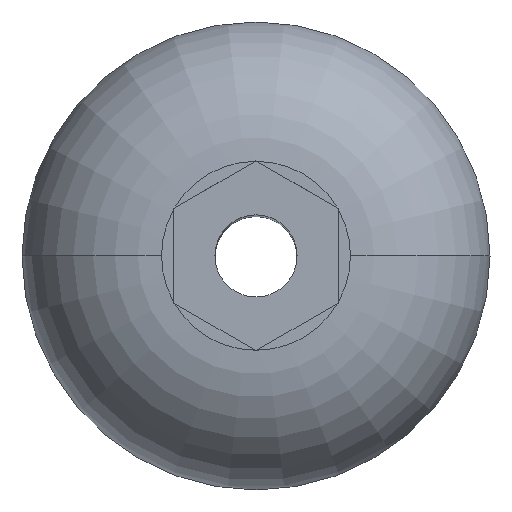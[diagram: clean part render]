
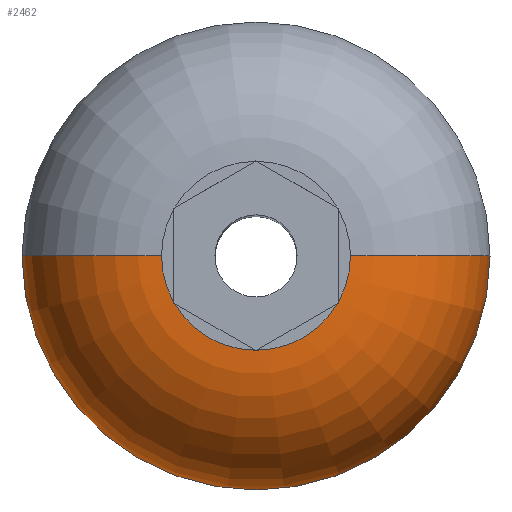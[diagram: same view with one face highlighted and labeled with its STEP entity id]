
A CAD part, top view. The second image highlights one B-rep face of the part: STEP entity #2462.
In plain terms, the highlighted toroidal (fillet/blend) face has major radius 1.151 mm and minor radius 1.7 mm.
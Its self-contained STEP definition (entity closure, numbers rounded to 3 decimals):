
#27 = ORIENTED_EDGE ( 'NONE', *, *, #2390, .F. ) ;
#32 = CARTESIAN_POINT ( 'NONE',  ( 0.998, -0.579, 1.65 ) ) ;
#42 = CARTESIAN_POINT ( 'NONE',  ( -1., -0.569, 1.65 ) ) ;
#67 = CARTESIAN_POINT ( 'NONE',  ( 1.151, 0., 1.65 ) ) ;
#98 = AXIS2_PLACEMENT_3D ( 'NONE', #1019, #1929, #536 ) ;
#117 = DIRECTION ( 'NONE',  ( 0., 0., 1. ) ) ;
#134 = ORIENTED_EDGE ( 'NONE', *, *, #463, .F. ) ;
#140 = AXIS2_PLACEMENT_3D ( 'NONE', #2002, #117, #2029 ) ;
#196 = EDGE_CURVE ( 'NONE', #515, #243, #1089, .T. ) ;
#214 = CARTESIAN_POINT ( 'NONE',  ( -1., -0.571, 1.65 ) ) ;
#223 = EDGE_CURVE ( 'NONE', #1755, #1436, #2193, .T. ) ;
#231 = ORIENTED_EDGE ( 'NONE', *, *, #1993, .T. ) ;
#243 = VERTEX_POINT ( 'NONE', #2162 ) ;
#286 = EDGE_CURVE ( 'NONE', #3002, #1436, #356, .T. ) ;
#356 = CIRCLE ( 'NONE', #807, 1.151 ) ;
#365 = B_SPLINE_CURVE_WITH_KNOTS ( 'NONE', 3,
 ( #2142, #1678, #1467, #1205 ),
 .UNSPECIFIED., .F., .F.,
 ( 4, 4 ),
 ( 0., 0. ),
 .UNSPECIFIED. ) ;
#417 = TOROIDAL_SURFACE ( 'NONE', #1311, 1.151, 1.7 ) ;
#431 = CIRCLE ( 'NONE', #1039, 1.151 ) ;
#433 = CIRCLE ( 'NONE', #2385, 1.7 ) ;
#463 = EDGE_CURVE ( 'NONE', #697, #243, #2159, .T. ) ;
#515 = VERTEX_POINT ( 'NONE', #1328 ) ;
#536 = DIRECTION ( 'NONE',  ( 0., 0., -1. ) ) ;
#602 = CARTESIAN_POINT ( 'NONE',  ( 0., 0., 1.65 ) ) ;
#652 = CARTESIAN_POINT ( 'NONE',  ( 0.007, -1.151, 1.65 ) ) ;
#674 = DIRECTION ( 'NONE',  ( 0.866, -0.5, 0. ) ) ;
#689 = CARTESIAN_POINT ( 'NONE',  ( -2.85, 0., 0. ) ) ;
#697 = VERTEX_POINT ( 'NONE', #652 ) ;
#731 = DIRECTION ( 'NONE',  ( 1., 0., 0. ) ) ;
#784 = DIRECTION ( 'NONE',  ( 0., 0., 1. ) ) ;
#787 = VECTOR ( 'NONE', #898, 1000. ) ;
#807 = AXIS2_PLACEMENT_3D ( 'NONE', #2618, #784, #1218 ) ;
#812 = CARTESIAN_POINT ( 'NONE',  ( -1.151, 0., -0.05 ) ) ;
#816 = AXIS2_PLACEMENT_3D ( 'NONE', #1015, #835, #731 ) ;
#835 = DIRECTION ( 'NONE',  ( 0., 0., 1. ) ) ;
#845 = CARTESIAN_POINT ( 'NONE',  ( 0., 0., 1.65 ) ) ;
#884 = LINE ( 'NONE', #2047, #1054 ) ;
#898 = DIRECTION ( 'NONE',  ( 0., 1., 0. ) ) ;
#900 = CARTESIAN_POINT ( 'NONE',  ( 2.85, 0., 0. ) ) ;
#944 = EDGE_CURVE ( 'NONE', #1032, #2375, #2230, .T. ) ;
#960 = VERTEX_POINT ( 'NONE', #983 ) ;
#968 = CARTESIAN_POINT ( 'NONE',  ( -1., -0.573, 1.65 ) ) ;
#983 = CARTESIAN_POINT ( 'NONE',  ( -1.151, 0., 1.65 ) ) ;
#986 = CARTESIAN_POINT ( 'NONE',  ( 0., -1.155, 1.65 ) ) ;
#1014 = ORIENTED_EDGE ( 'NONE', *, *, #286, .F. ) ;
#1015 = CARTESIAN_POINT ( 'NONE',  ( 0., 0., 0. ) ) ;
#1019 = CARTESIAN_POINT ( 'NONE',  ( 1.151, 0., -0.05 ) ) ;
#1032 = VERTEX_POINT ( 'NONE', #2762 ) ;
#1039 = AXIS2_PLACEMENT_3D ( 'NONE', #602, #2672, #1531 ) ;
#1054 = VECTOR ( 'NONE', #1808, 1000. ) ;
#1060 = B_SPLINE_CURVE_WITH_KNOTS ( 'NONE', 3,
 ( #1865, #3018, #968, #214, #2578 ),
 .UNSPECIFIED., .F., .F.,
 ( 4, 1, 4 ),
 ( 0.014, 0.014, 0.014 ),
 .UNSPECIFIED. ) ;
#1089 = B_SPLINE_CURVE_WITH_KNOTS ( 'NONE', 3,
 ( #2401, #32, #2630, #1691 ),
 .UNSPECIFIED., .F., .F.,
 ( 4, 4 ),
 ( 0., 0. ),
 .UNSPECIFIED. ) ;
#1138 = LINE ( 'NONE', #1640, #1437 ) ;
#1139 = ORIENTED_EDGE ( 'NONE', *, *, #2270, .F. ) ;
#1196 = EDGE_CURVE ( 'NONE', #1242, #1991, #1060, .T. ) ;
#1205 = CARTESIAN_POINT ( 'NONE',  ( -0.007, -1.151, 1.65 ) ) ;
#1218 = DIRECTION ( 'NONE',  ( 1., 0., 0. ) ) ;
#1242 = VERTEX_POINT ( 'NONE', #2406 ) ;
#1294 = CARTESIAN_POINT ( 'NONE',  ( 1., -0.569, 1.65 ) ) ;
#1307 = FACE_OUTER_BOUND ( 'NONE', #2243, .T. ) ;
#1311 = AXIS2_PLACEMENT_3D ( 'NONE', #1840, #3001, #1847 ) ;
#1328 = CARTESIAN_POINT ( 'NONE',  ( 1., -0.577, 1.65 ) ) ;
#1358 = ORIENTED_EDGE ( 'NONE', *, *, #1635, .F. ) ;
#1416 = EDGE_CURVE ( 'NONE', #2591, #960, #433, .T. ) ;
#1436 = VERTEX_POINT ( 'NONE', #67 ) ;
#1437 = VECTOR ( 'NONE', #674, 1000. ) ;
#1467 = CARTESIAN_POINT ( 'NONE',  ( -0.005, -1.152, 1.65 ) ) ;
#1531 = DIRECTION ( 'NONE',  ( 1., 0., 0. ) ) ;
#1533 = DIRECTION ( 'NONE',  ( 0., 0., 1. ) ) ;
#1635 = EDGE_CURVE ( 'NONE', #960, #1991, #431, .T. ) ;
#1640 = CARTESIAN_POINT ( 'NONE',  ( -1., -0.577, 1.65 ) ) ;
#1678 = CARTESIAN_POINT ( 'NONE',  ( -0.002, -1.153, 1.65 ) ) ;
#1691 = CARTESIAN_POINT ( 'NONE',  ( 0.993, -0.581, 1.65 ) ) ;
#1755 = VERTEX_POINT ( 'NONE', #900 ) ;
#1795 = ORIENTED_EDGE ( 'NONE', *, *, #1813, .F. ) ;
#1808 = DIRECTION ( 'NONE',  ( 0.866, 0.5, 0. ) ) ;
#1813 = EDGE_CURVE ( 'NONE', #1242, #1032, #1138, .T. ) ;
#1840 = CARTESIAN_POINT ( 'NONE',  ( 0., 0., -0.05 ) ) ;
#1847 = DIRECTION ( 'NONE',  ( 1., 0., 0. ) ) ;
#1865 = CARTESIAN_POINT ( 'NONE',  ( -1., -0.577, 1.65 ) ) ;
#1921 = ORIENTED_EDGE ( 'NONE', *, *, #2255, .T. ) ;
#1929 = DIRECTION ( 'NONE',  ( 0., -1., 0. ) ) ;
#1959 = DIRECTION ( 'NONE',  ( 0., 1., 0. ) ) ;
#1991 = VERTEX_POINT ( 'NONE', #42 ) ;
#1993 = EDGE_CURVE ( 'NONE', #2863, #2375, #365, .T. ) ;
#2002 = CARTESIAN_POINT ( 'NONE',  ( 0., 0., 1.65 ) ) ;
#2029 = DIRECTION ( 'NONE',  ( 1., 0., 0. ) ) ;
#2047 = CARTESIAN_POINT ( 'NONE',  ( 0., -1.155, 1.65 ) ) ;
#2064 = CARTESIAN_POINT ( 'NONE',  ( 1., -0.577, 1.65 ) ) ;
#2142 = CARTESIAN_POINT ( 'NONE',  ( 0., -1.155, 1.65 ) ) ;
#2159 = CIRCLE ( 'NONE', #2357, 1.151 ) ;
#2162 = CARTESIAN_POINT ( 'NONE',  ( 0.993, -0.581, 1.65 ) ) ;
#2193 = CIRCLE ( 'NONE', #98, 1.7 ) ;
#2203 = DIRECTION ( 'NONE',  ( -1., 0., 0. ) ) ;
#2230 = CIRCLE ( 'NONE', #140, 1.151 ) ;
#2243 = EDGE_LOOP ( 'NONE', ( #2537, #1921, #2457, #1014, #27, #2584, #134, #1139, #231, #2257, #1795, #2818, #1358 ) ) ;
#2255 = EDGE_CURVE ( 'NONE', #2591, #1755, #2360, .T. ) ;
#2257 = ORIENTED_EDGE ( 'NONE', *, *, #944, .F. ) ;
#2270 = EDGE_CURVE ( 'NONE', #2863, #697, #884, .T. ) ;
#2357 = AXIS2_PLACEMENT_3D ( 'NONE', #845, #1533, #2474 ) ;
#2360 = CIRCLE ( 'NONE', #816, 2.85 ) ;
#2375 = VERTEX_POINT ( 'NONE', #2714 ) ;
#2385 = AXIS2_PLACEMENT_3D ( 'NONE', #812, #1959, #2203 ) ;
#2389 = LINE ( 'NONE', #2064, #787 ) ;
#2390 = EDGE_CURVE ( 'NONE', #515, #3002, #2389, .T. ) ;
#2401 = CARTESIAN_POINT ( 'NONE',  ( 1., -0.577, 1.65 ) ) ;
#2406 = CARTESIAN_POINT ( 'NONE',  ( -1., -0.577, 1.65 ) ) ;
#2457 = ORIENTED_EDGE ( 'NONE', *, *, #223, .T. ) ;
#2462 = ADVANCED_FACE ( 'NONE', ( #1307 ), #417, .T. ) ;
#2474 = DIRECTION ( 'NONE',  ( 1., 0., 0. ) ) ;
#2537 = ORIENTED_EDGE ( 'NONE', *, *, #1416, .F. ) ;
#2578 = CARTESIAN_POINT ( 'NONE',  ( -1., -0.569, 1.65 ) ) ;
#2584 = ORIENTED_EDGE ( 'NONE', *, *, #196, .T. ) ;
#2591 = VERTEX_POINT ( 'NONE', #689 ) ;
#2618 = CARTESIAN_POINT ( 'NONE',  ( 0., 0., 1.65 ) ) ;
#2630 = CARTESIAN_POINT ( 'NONE',  ( 0.995, -0.58, 1.65 ) ) ;
#2672 = DIRECTION ( 'NONE',  ( 0., 0., 1. ) ) ;
#2714 = CARTESIAN_POINT ( 'NONE',  ( -0.007, -1.151, 1.65 ) ) ;
#2762 = CARTESIAN_POINT ( 'NONE',  ( -0.993, -0.581, 1.65 ) ) ;
#2818 = ORIENTED_EDGE ( 'NONE', *, *, #1196, .T. ) ;
#2863 = VERTEX_POINT ( 'NONE', #986 ) ;
#3001 = DIRECTION ( 'NONE',  ( 0., 0., 1. ) ) ;
#3002 = VERTEX_POINT ( 'NONE', #1294 ) ;
#3018 = CARTESIAN_POINT ( 'NONE',  ( -1., -0.576, 1.65 ) ) ;
